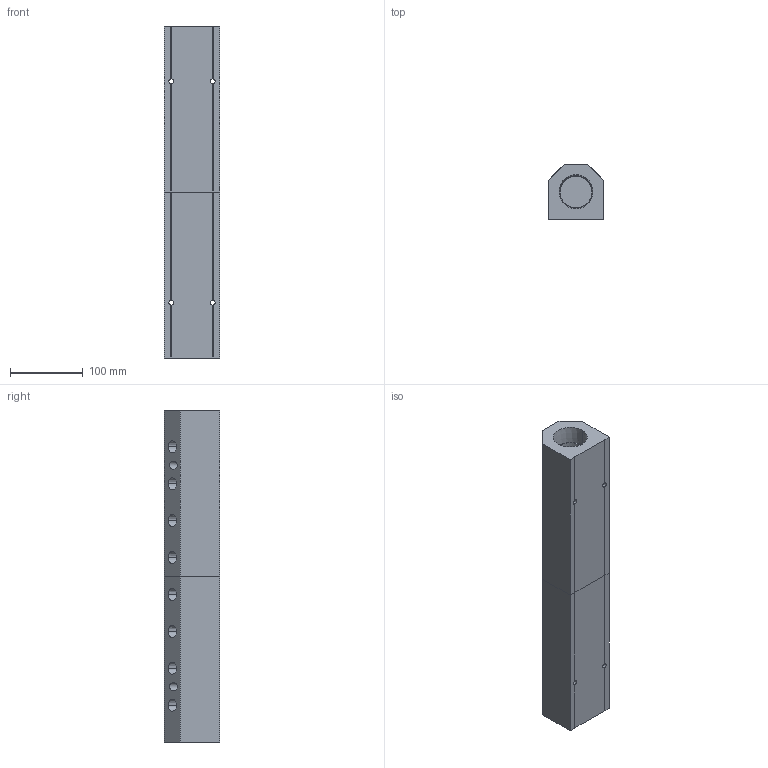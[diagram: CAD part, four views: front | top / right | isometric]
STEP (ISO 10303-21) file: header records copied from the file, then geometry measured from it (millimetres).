
FILE_DESCRIPTION (( 'STEP AP214' ), '1' );
FILE_NAME ('ALM8BCD-N6N24-457RB.step', '2022-02-07T09:16:14', ( '' ), ( '' ), 'SwSTEP 2.0', 'SolidWorks 2020', '' );
FILE_SCHEMA (( 'AUTOMOTIVE_DESIGN' ));
Length unit declared in the file: millimetre
Products named in the file (1): ALM8BCD-N6N24-457RB
Bounding box: 76.2 x 76.2 x 457 mm (x, y, z)
Volume: 1624954 mm3; surface area: 227829.8 mm2
Topology: 2 solids, 2 shells, 398 faces, 1051 edges, 698 vertices
Faces by surface type: plane 246, bspline 80, cone 52, cylinder 20
Entity records: 23174 total; most frequent: CARTESIAN_POINT 10012, ORIENTED_EDGE 2102, DIRECTION 1553, EDGE_CURVE 1051, VECTOR 739, LINE 739, VERTEX_POINT 698, EDGE_LOOP 495
